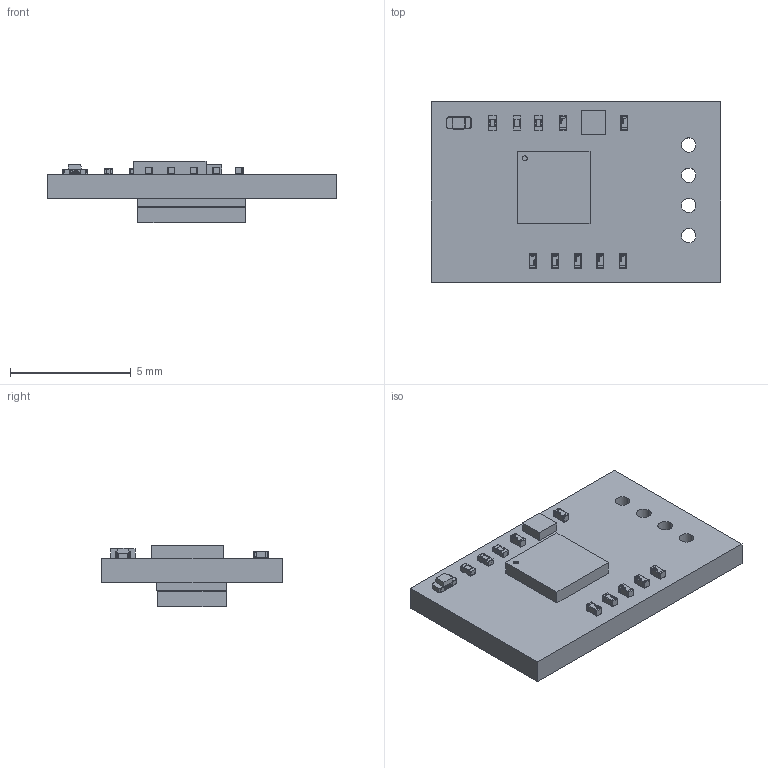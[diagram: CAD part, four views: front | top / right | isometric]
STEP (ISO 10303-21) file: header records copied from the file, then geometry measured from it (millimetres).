
FILE_DESCRIPTION (( 'STEP AP203' ), '1' );
FILE_NAME ('3D_PCB1_2025-03-03.STEP', '2025-03-14T03:17:45', ( '' ), ( '' ), 'SwSTEP 2.0', 'SolidWorks 2020', '' );
FILE_SCHEMA (( 'CONFIG_CONTROL_DESIGN' ));
Products named in the file (1): 3D_PCB1_2025-03-03
Bounding box: 11.97 x 7.47 x 2.56 mm (x, y, z)
Volume: 102.9 mm3; surface area: 356.9 mm2
Topology: 58 solids, 58 shells, 3728 faces, 9889 edges, 6500 vertices
Faces by surface type: plane 2241, bspline 1245, cylinder 170, sphere 70, cone 2
Entity records: 127214 total; most frequent: CARTESIAN_POINT 43445, ORIENTED_EDGE 19610, DIRECTION 12599, EDGE_CURVE 9805, LINE 6887, VECTOR 6887, VERTEX_POINT 6486, EDGE_LOOP 4035
